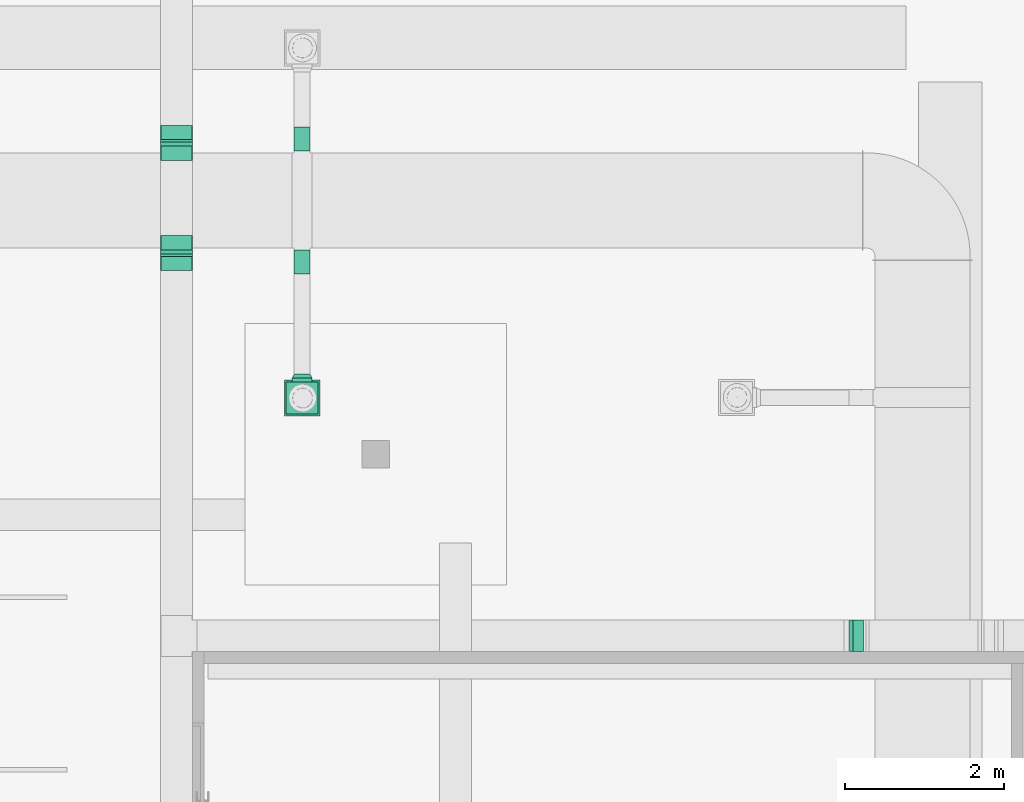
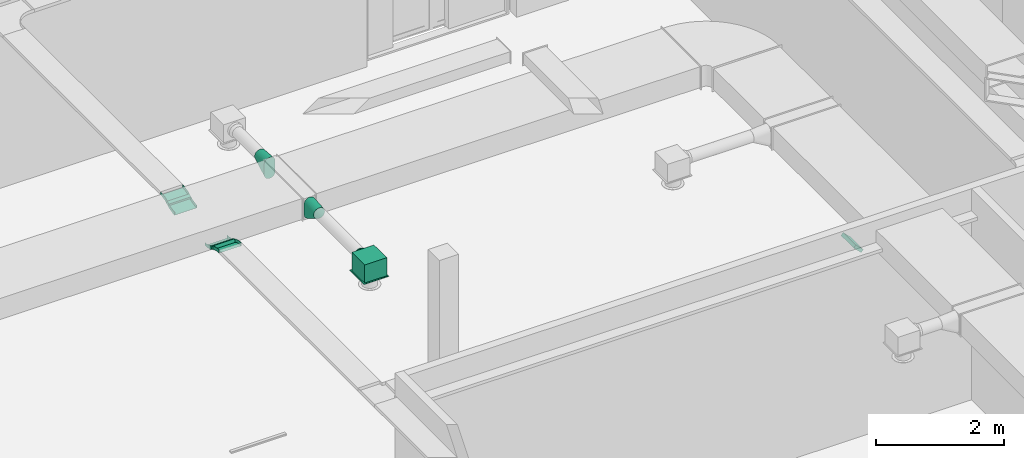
# One storey, part 284 of 302: 7 flow fittings, 3 flow segments, 1 flow terminal.
"""IFC2X3 building model written with IfcOpenShell, lengths in metres."""

from ifc_helpers import new_model, entity, si_unit, converted_unit, derived_unit, direction, frame, frame_2d, origin, origin_2d_with_axis, place, context, subcontext, project, spatial, rectangle, circle, extrude, faceted_brep, source, transform, mapped, material, material_list, type_object, type_shapes, element, save


model = new_model("IFC2X3")

# Units and contexts
model_context = context("Model", 3, precision=1e-05, world=origin(), true_north=direction((6.12303176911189e-17, 1.0)))
body_context = subcontext(model_context, "Body", "Model", "MODEL_VIEW")
ifc_project = project(units=[si_unit("LENGTHUNIT", "METRE"), si_unit("AREAUNIT", "SQUARE_METRE"), si_unit("VOLUMEUNIT", "CUBIC_METRE"), converted_unit("PLANEANGLEUNIT", "DEGREE", entity("IfcRatioMeasure", 0.0174532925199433), si_unit("PLANEANGLEUNIT", "RADIAN"), dimensions=[0, 0, 0, 0, 0, 0, 0]), si_unit("MASSUNIT", "GRAM", prefix="KILO"), derived_unit("MASSDENSITYUNIT", [(si_unit("MASSUNIT", "GRAM", prefix="KILO"), 1), (si_unit("LENGTHUNIT", "METRE"), -3)]), derived_unit("MOMENTOFINERTIAUNIT", [(si_unit("LENGTHUNIT", "METRE"), 4)]), si_unit("TIMEUNIT", "SECOND"), si_unit("FREQUENCYUNIT", "HERTZ"), si_unit("THERMODYNAMICTEMPERATUREUNIT", "DEGREE_CELSIUS"), derived_unit("THERMALTRANSMITTANCEUNIT", [(si_unit("MASSUNIT", "GRAM", prefix="KILO"), 1), (si_unit("THERMODYNAMICTEMPERATUREUNIT", "KELVIN"), -1), (si_unit("TIMEUNIT", "SECOND"), -3)]), derived_unit("VOLUMETRICFLOWRATEUNIT", [(si_unit("LENGTHUNIT", "METRE"), 3), (si_unit("TIMEUNIT", "SECOND"), -1)]), si_unit("ELECTRICCURRENTUNIT", "AMPERE"), si_unit("ELECTRICVOLTAGEUNIT", "VOLT"), si_unit("POWERUNIT", "WATT"), si_unit("FORCEUNIT", "NEWTON", prefix="KILO"), si_unit("ILLUMINANCEUNIT", "LUX"), si_unit("LUMINOUSFLUXUNIT", "LUMEN"), si_unit("LUMINOUSINTENSITYUNIT", "CANDELA"), derived_unit("USERDEFINED", [(si_unit("MASSUNIT", "GRAM", prefix="KILO"), -1), (si_unit("LENGTHUNIT", "METRE"), -2), (si_unit("TIMEUNIT", "SECOND"), 3), (si_unit("LUMINOUSFLUXUNIT", "LUMEN"), 1)]), derived_unit("LINEARVELOCITYUNIT", [(si_unit("LENGTHUNIT", "METRE"), 1), (si_unit("TIMEUNIT", "SECOND"), -1)]), si_unit("PRESSUREUNIT", "PASCAL"), derived_unit("USERDEFINED", [(si_unit("LENGTHUNIT", "METRE"), -2), (si_unit("MASSUNIT", "GRAM", prefix="KILO"), 1), (si_unit("TIMEUNIT", "SECOND"), -2)]), derived_unit("LINEARFORCEUNIT", [(si_unit("MASSUNIT", "GRAM", prefix="KILO"), 1), (si_unit("LENGTHUNIT", "METRE"), 1), (si_unit("TIMEUNIT", "SECOND"), -2), (si_unit("LENGTHUNIT", "METRE"), -1)]), derived_unit("PLANARFORCEUNIT", [(si_unit("MASSUNIT", "GRAM", prefix="KILO"), 1), (si_unit("LENGTHUNIT", "METRE"), 1), (si_unit("TIMEUNIT", "SECOND"), -2), (si_unit("LENGTHUNIT", "METRE"), -2)])], contexts=[model_context])

# Site, building, storey
site_placement = place(None, origin())
site = spatial("IfcSite", under=ifc_project, at=site_placement, Name="Default", CompositionType="ELEMENT")
building_placement = place(site_placement, origin())
building = spatial("IfcBuilding", under=site, at=building_placement, CompositionType="ELEMENT")
storey_placement = place(building_placement, frame((0.0, 0.0, -1.3)))
storey = spatial("IfcBuildingStorey", under=building, at=storey_placement, Name="00_EG", CompositionType="ELEMENT", Elevation=-1.3)

# Flow segments
cable_carrier_segment_type = type_object("IfcCableCarrierSegmentType", Name="Kabeltrasse mit Formteilen:Channel Cable Tray", PredefinedType="CABLETRAYSEGMENT")
flow_segment_1_placement = place(storey_placement, origin())
element("IfcFlowSegment", 1, at=flow_segment_1_placement, inside=storey, type_object=cable_carrier_segment_type, Name="Kabeltrasse mit Formteilen:Channel Cable Tray", ObjectType="Kabeltrasse mit Formteilen:Channel Cable Tray", context=body_context, shape_type="SweptSolid", body=[
    extrude(rectangle(XDim=0.0600000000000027, YDim=0.0578549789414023, at=frame_2d((-1.23165366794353e-16, -2.41126563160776e-16), x_axis=(0.0, 1.0))), frame((-220.285111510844, 39.335257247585, 4.79000000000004), z_axis=(1.0, 0.0, 0.0), x_axis=(0.0, 0.891006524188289, 0.453990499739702)), (0.0, 0.0, 1.0), 0.399999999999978),
])
flow_segment_2_placement = place(storey_placement, origin())
element("IfcFlowSegment", 2, at=flow_segment_2_placement, inside=storey, type_object=cable_carrier_segment_type, Name="Kabeltrasse mit Formteilen:Channel Cable Tray", ObjectType="Kabeltrasse mit Formteilen:Channel Cable Tray", context=body_context, shape_type="SweptSolid", body=[
    extrude(rectangle(XDim=0.0600000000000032, YDim=0.0578549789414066, at=frame_2d((-1.80584713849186e-15, -1.22471477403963e-15), x_axis=(0.0, 1.0))), frame((-220.285111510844, 37.9444956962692, 4.79000000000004), z_axis=(1.0, 0.0, 0.0), x_axis=(0.0, -0.891006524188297, 0.453990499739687)), (0.0, 0.0, 1.0), 0.399999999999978),
])
flow_segment_3_placement = place(storey_placement, origin())
element("IfcFlowSegment", 3, at=flow_segment_3_placement, inside=storey, type_object=cable_carrier_segment_type, Name="Kabeltrasse mit Formteilen:Channel Cable Tray", ObjectType="Kabeltrasse mit Formteilen:Channel Cable Tray", context=body_context, shape_type="SweptSolid", body=[
    extrude(rectangle(XDim=0.189289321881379, YDim=0.0600000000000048, at=frame_2d((1.87350135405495e-16, 1.89084858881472e-16), x_axis=(1.0, 0.0))), frame((-211.512193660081, 32.9190889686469, 4.745), z_axis=(0.0, 1.0, 0.0), x_axis=(0.707106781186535, 0.0, -0.70710678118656)), (0.0, 0.0, 1.0), 0.400000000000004),
])

# Flow fittings
ifc_material = material(Name="<Unnamed>")
cable_carrier_fitting_type_1 = type_object("IfcCableCarrierFittingType", Name="Kabeltrasse - Bogen außen vertikal:Standard", PredefinedType="NOTDEFINED", material=ifc_material)
shared_shape_1 = source(origin(), body_context, "Body", "Brep", [
    faceted_brep([(-0.103233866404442, -0.0300000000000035, 0.199999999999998), (-0.103233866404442, 0.0299999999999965, 0.199999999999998), (-0.103233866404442, 0.0299999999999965, -0.200000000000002), (-0.103233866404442, -0.0300000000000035, -0.200000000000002), (-0.103233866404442, -0.0300000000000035, -0.197460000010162), (-0.103233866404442, 0.0274600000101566, -0.197460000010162), (-0.103233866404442, 0.0274600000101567, 0.197460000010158), (-0.103233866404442, -0.0300000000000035, 0.197460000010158), (0.105601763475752, 0.0201369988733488, 0.199999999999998), (0.105601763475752, 0.0201369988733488, 0.197460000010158), (0.0795154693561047, 0.071334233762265, 0.197460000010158), (0.0795154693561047, 0.071334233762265, -0.197460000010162), (0.105601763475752, 0.0201369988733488, -0.197460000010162), (0.105601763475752, 0.0201369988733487, -0.200000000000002), (0.0783623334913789, 0.0735973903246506, -0.200000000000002), (0.0783623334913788, 0.0735973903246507, 0.199999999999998), (-0.0487892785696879, -0.0300000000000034, 0.199999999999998), (0.0570912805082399, -0.00458032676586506, 0.199999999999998), (0.036179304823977, 0.052104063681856, 0.199999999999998), (-0.0558907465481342, 0.0299999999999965, 0.199999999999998), (-0.0558907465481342, 0.0299999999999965, -0.200000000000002), (0.036179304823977, 0.052104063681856, -0.200000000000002), (0.0570912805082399, -0.00458032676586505, -0.200000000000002), (-0.0487892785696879, -0.0300000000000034, -0.200000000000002), (-0.0487892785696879, -0.0300000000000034, -0.197460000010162), (0.0570912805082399, -0.00458032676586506, -0.197460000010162), (0.0370645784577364, 0.0497044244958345, -0.197460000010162), (-0.0555901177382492, 0.0274600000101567, -0.197460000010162), (-0.0555901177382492, 0.0274600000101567, 0.197460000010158), (0.0370645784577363, 0.0497044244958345, 0.197460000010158), (0.0570912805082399, -0.00458032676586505, 0.197460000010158), (-0.0487892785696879, -0.0300000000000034, 0.197460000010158)], [[[0, 1, 2, 3, 4, 5, 6, 7]], [[8, 9, 10, 11, 12, 13, 14, 15]], [[1, 0, 16, 17, 8, 15, 18, 19]], [[2, 1, 19, 20]], [[3, 2, 20, 21, 14, 13, 22, 23]], [[4, 3, 23, 24]], [[5, 4, 24, 25, 12, 11, 26, 27]], [[6, 5, 27, 28]], [[7, 6, 28, 29, 10, 9, 30, 31]], [[0, 7, 31, 16]], [[20, 19, 18, 21]], [[24, 23, 22, 25]], [[28, 27, 26, 29]], [[16, 31, 30, 17]], [[21, 18, 15, 14]], [[25, 22, 13, 12]], [[29, 26, 11, 10]], [[17, 30, 9, 8]]]),
])
type_shapes(cable_carrier_fitting_type_1, [shared_shape_1])
flow_fitting_1_placement = place(storey_placement, frame((-220.085111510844, 37.8267390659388, 4.85000000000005), z_axis=(1.0, 0.0, 0.0), x_axis=(0.0, -0.891006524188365, 0.453990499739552)))
element("IfcFlowFitting", 4, at=flow_fitting_1_placement, inside=storey, type_object=cable_carrier_fitting_type_1, material=ifc_material, Name="Kabeltrasse - Bogen außen vertikal:Standard", ObjectType="Kabeltrasse - Bogen außen vertikal:Standard", context=body_context, shape_type="MappedRepresentation", body=[
    mapped(shared_shape_1, transform((0.0, 0.0, 0.0), scale=1.0)),
])
cable_carrier_fitting_type_2 = type_object("IfcCableCarrierFittingType", Name="Kabeltrasse - Bogen innen vertikal:Standard", PredefinedType="NOTDEFINED", material=ifc_material)
shared_shape_2 = source(origin(), body_context, "Body", "Brep", [
    faceted_brep([(-0.103233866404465, 0.0299999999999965, 0.199999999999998), (-0.103233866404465, 0.0299999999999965, 0.197460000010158), (-0.103233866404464, -0.0274600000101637, 0.197460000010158), (-0.103233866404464, -0.0274600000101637, -0.197460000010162), (-0.103233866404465, 0.0299999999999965, -0.197460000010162), (-0.103233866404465, 0.0299999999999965, -0.200000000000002), (-0.103233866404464, -0.0300000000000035, -0.200000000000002), (-0.103233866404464, -0.0300000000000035, 0.199999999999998), (0.0783623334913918, 0.0735973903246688, 0.199999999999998), (0.10560176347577, 0.0201369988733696, 0.199999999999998), (0.10560176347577, 0.0201369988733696, -0.200000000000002), (0.0783623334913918, 0.0735973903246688, -0.200000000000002), (0.0783623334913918, 0.0735973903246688, -0.197460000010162), (0.104448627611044, 0.0224001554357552, -0.197460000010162), (0.104448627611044, 0.0224001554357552, 0.197460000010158), (0.0783623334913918, 0.0735973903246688, 0.197460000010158), (-0.0558907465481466, 0.0299999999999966, 0.199999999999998), (-0.0558907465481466, 0.0299999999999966, 0.197460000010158), (0.036179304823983, 0.0521040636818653, 0.197460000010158), (0.0562060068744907, -0.00218068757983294, 0.197460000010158), (-0.0490899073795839, -0.0274600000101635, 0.197460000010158), (-0.0490899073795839, -0.0274600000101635, -0.197460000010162), (0.0562060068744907, -0.00218068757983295, -0.197460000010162), (0.036179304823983, 0.0521040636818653, -0.197460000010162), (-0.0558907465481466, 0.0299999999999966, -0.197460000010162), (-0.0558907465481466, 0.0299999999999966, -0.200000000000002), (0.036179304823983, 0.0521040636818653, -0.200000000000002), (0.0570912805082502, -0.00458032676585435, -0.200000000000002), (-0.0487892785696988, -0.0300000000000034, -0.200000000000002), (-0.0487892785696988, -0.0300000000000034, 0.199999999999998), (0.0570912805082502, -0.00458032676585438, 0.199999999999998), (0.036179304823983, 0.0521040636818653, 0.199999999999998)], [[[0, 1, 2, 3, 4, 5, 6, 7]], [[8, 9, 10, 11, 12, 13, 14, 15]], [[1, 0, 16, 17]], [[2, 1, 17, 18, 15, 14, 19, 20]], [[3, 2, 20, 21]], [[4, 3, 21, 22, 13, 12, 23, 24]], [[5, 4, 24, 25]], [[6, 5, 25, 26, 11, 10, 27, 28]], [[7, 6, 28, 29]], [[0, 7, 29, 30, 9, 8, 31, 16]], [[17, 16, 31, 18]], [[21, 20, 19, 22]], [[25, 24, 23, 26]], [[29, 28, 27, 30]], [[18, 31, 8, 15]], [[22, 19, 14, 13]], [[26, 23, 12, 11]], [[30, 27, 10, 9]]]),
])
type_shapes(cable_carrier_fitting_type_2, [shared_shape_2])
flow_fitting_2_placement = place(storey_placement, frame((-220.085111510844, 38.0622523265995, 4.73000000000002), z_axis=(1.0, 0.0, 0.0), x_axis=(0.0, 0.89100652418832, -0.453990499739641)))
element("IfcFlowFitting", 5, at=flow_fitting_2_placement, inside=storey, type_object=cable_carrier_fitting_type_2, material=ifc_material, Name="Kabeltrasse - Bogen innen vertikal:Standard", ObjectType="Kabeltrasse - Bogen innen vertikal:Standard", context=body_context, shape_type="MappedRepresentation", body=[
    mapped(shared_shape_2, transform((0.0, 0.0, 0.0), scale=1.0)),
])
cable_carrier_fitting_type_3 = type_object("IfcCableCarrierFittingType", Name="Kabeltrasse - Bogen außen vertikal:Standard", PredefinedType="NOTDEFINED", material=ifc_material)
shared_shape_3 = source(origin(), body_context, "Body", "Brep", [
    faceted_brep([(-0.103233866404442, 0.0300000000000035, 0.199999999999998), (-0.103233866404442, 0.0300000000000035, 0.197460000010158), (-0.103233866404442, -0.0274600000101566, 0.197460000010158), (-0.103233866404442, -0.0274600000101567, -0.197460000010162), (-0.103233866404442, 0.0300000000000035, -0.197460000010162), (-0.103233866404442, 0.0300000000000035, -0.200000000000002), (-0.103233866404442, -0.0299999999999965, -0.200000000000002), (-0.103233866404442, -0.0299999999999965, 0.199999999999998), (0.105601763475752, -0.0201369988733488, 0.199999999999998), (0.0783623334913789, -0.0735973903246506, 0.199999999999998), (0.0783623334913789, -0.0735973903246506, -0.200000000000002), (0.105601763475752, -0.0201369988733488, -0.200000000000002), (0.105601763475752, -0.0201369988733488, -0.197460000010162), (0.0795154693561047, -0.071334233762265, -0.197460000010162), (0.0795154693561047, -0.071334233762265, 0.197460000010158), (0.105601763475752, -0.0201369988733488, 0.197460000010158), (-0.0558907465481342, -0.0299999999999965, 0.199999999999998), (0.036179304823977, -0.052104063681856, 0.199999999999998), (0.0570912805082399, 0.00458032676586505, 0.199999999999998), (-0.0487892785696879, 0.0300000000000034, 0.199999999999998), (-0.0558907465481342, -0.0299999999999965, -0.200000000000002), (-0.0487892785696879, 0.0300000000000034, -0.200000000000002), (0.0570912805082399, 0.00458032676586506, -0.200000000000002), (0.036179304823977, -0.052104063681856, -0.200000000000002), (-0.0487892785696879, 0.0300000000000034, -0.197460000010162), (-0.0555901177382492, -0.0274600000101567, -0.197460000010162), (0.0370645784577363, -0.0497044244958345, -0.197460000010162), (0.0570912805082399, 0.00458032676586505, -0.197460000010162), (-0.0555901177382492, -0.0274600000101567, 0.197460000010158), (-0.0487892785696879, 0.0300000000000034, 0.197460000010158), (0.0570912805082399, 0.00458032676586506, 0.197460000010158), (0.0370645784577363, -0.0497044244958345, 0.197460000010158)], [[[0, 1, 2, 3, 4, 5, 6, 7]], [[8, 9, 10, 11, 12, 13, 14, 15]], [[7, 16, 17, 9, 8, 18, 19, 0]], [[6, 20, 16, 7]], [[5, 21, 22, 11, 10, 23, 20, 6]], [[4, 24, 21, 5]], [[3, 25, 26, 13, 12, 27, 24, 4]], [[2, 28, 25, 3]], [[1, 29, 30, 15, 14, 31, 28, 2]], [[0, 19, 29, 1]], [[20, 23, 17, 16]], [[24, 27, 22, 21]], [[28, 31, 26, 25]], [[19, 18, 30, 29]], [[23, 10, 9, 17]], [[27, 12, 11, 22]], [[31, 14, 13, 26]], [[18, 8, 15, 30]]]),
])
type_shapes(cable_carrier_fitting_type_3, [shared_shape_3])
flow_fitting_3_placement = place(storey_placement, frame((-220.085111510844, 39.4530138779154, 4.85000000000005), z_axis=(1.0, 0.0, 0.0), x_axis=(0.0, 0.891006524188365, 0.453990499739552)))
element("IfcFlowFitting", 6, at=flow_fitting_3_placement, inside=storey, type_object=cable_carrier_fitting_type_3, material=ifc_material, Name="Kabeltrasse - Bogen außen vertikal:Standard", ObjectType="Kabeltrasse - Bogen außen vertikal:Standard", context=body_context, shape_type="MappedRepresentation", body=[
    mapped(shared_shape_3, transform((0.0, 0.0, 0.0), scale=1.0)),
])
cable_carrier_fitting_type_4 = type_object("IfcCableCarrierFittingType", Name="Kabeltrasse - Bogen innen vertikal:Standard", PredefinedType="NOTDEFINED", material=ifc_material)
shared_shape_4 = source(origin(), body_context, "Body", "Brep", [
    faceted_brep([(-0.103233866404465, -0.0299999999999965, 0.199999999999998), (-0.103233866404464, 0.0300000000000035, 0.199999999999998), (-0.103233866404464, 0.0300000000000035, -0.200000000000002), (-0.103233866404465, -0.0299999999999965, -0.200000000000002), (-0.103233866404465, -0.0299999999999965, -0.197460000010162), (-0.103233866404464, 0.0274600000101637, -0.197460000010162), (-0.103233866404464, 0.0274600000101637, 0.197460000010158), (-0.103233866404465, -0.0299999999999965, 0.197460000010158), (0.0783623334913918, -0.0735973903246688, 0.199999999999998), (0.0783623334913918, -0.0735973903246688, 0.197460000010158), (0.104448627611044, -0.0224001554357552, 0.197460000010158), (0.104448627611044, -0.0224001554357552, -0.197460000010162), (0.0783623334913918, -0.0735973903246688, -0.197460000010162), (0.0783623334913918, -0.0735973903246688, -0.200000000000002), (0.10560176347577, -0.0201369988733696, -0.200000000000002), (0.10560176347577, -0.0201369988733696, 0.199999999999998), (-0.0558907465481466, -0.0299999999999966, 0.197460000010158), (-0.0558907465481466, -0.0299999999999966, 0.199999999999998), (-0.0490899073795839, 0.0274600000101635, 0.197460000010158), (0.0562060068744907, 0.00218068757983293, 0.197460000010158), (0.036179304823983, -0.0521040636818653, 0.197460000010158), (-0.0490899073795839, 0.0274600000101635, -0.197460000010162), (-0.0558907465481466, -0.0299999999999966, -0.197460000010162), (0.036179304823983, -0.0521040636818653, -0.197460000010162), (0.0562060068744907, 0.00218068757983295, -0.197460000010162), (-0.0558907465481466, -0.0299999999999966, -0.200000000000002), (-0.0487892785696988, 0.0300000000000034, -0.200000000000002), (0.0570912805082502, 0.00458032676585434, -0.200000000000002), (0.036179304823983, -0.0521040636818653, -0.200000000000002), (-0.0487892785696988, 0.0300000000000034, 0.199999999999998), (0.036179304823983, -0.0521040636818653, 0.199999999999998), (0.0570912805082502, 0.00458032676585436, 0.199999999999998)], [[[0, 1, 2, 3, 4, 5, 6, 7]], [[8, 9, 10, 11, 12, 13, 14, 15]], [[7, 16, 17, 0]], [[6, 18, 19, 10, 9, 20, 16, 7]], [[5, 21, 18, 6]], [[4, 22, 23, 12, 11, 24, 21, 5]], [[3, 25, 22, 4]], [[2, 26, 27, 14, 13, 28, 25, 3]], [[1, 29, 26, 2]], [[0, 17, 30, 8, 15, 31, 29, 1]], [[16, 20, 30, 17]], [[21, 24, 19, 18]], [[25, 28, 23, 22]], [[29, 31, 27, 26]], [[20, 9, 8, 30]], [[24, 11, 10, 19]], [[28, 13, 12, 23]], [[31, 15, 14, 27]]]),
])
type_shapes(cable_carrier_fitting_type_4, [shared_shape_4])
flow_fitting_4_placement = place(storey_placement, frame((-220.085111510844, 39.2175006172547, 4.73000000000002), z_axis=(1.0, 0.0, 0.0), x_axis=(0.0, -0.89100652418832, -0.453990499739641)))
element("IfcFlowFitting", 7, at=flow_fitting_4_placement, inside=storey, type_object=cable_carrier_fitting_type_4, material=ifc_material, Name="Kabeltrasse - Bogen innen vertikal:Standard", ObjectType="Kabeltrasse - Bogen innen vertikal:Standard", context=body_context, shape_type="MappedRepresentation", body=[
    mapped(shared_shape_4, transform((0.0, 0.0, 0.0), scale=1.0)),
])
duct_fitting_type_1 = type_object("IfcDuctFittingType", Name="STR_RND_Transition:STR_Transition_RND_GS_EA", PredefinedType="NOTDEFINED", material=ifc_material)
shared_shape_5 = source(origin(), body_context, "Body", "Brep", [
    faceted_brep([(0.0500000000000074, -0.073473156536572, -0.1011271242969), (0.0500000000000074, -0.0386271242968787, -0.118882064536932), (0.0500000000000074, 0.0, -0.12500000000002), (0.0500000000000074, 0.0386271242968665, -0.11888206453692), (0.0500000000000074, 0.073473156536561, -0.101127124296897), (0.0500000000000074, 0.101127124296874, -0.0734731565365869), (0.0500000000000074, 0.1188820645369, -0.038627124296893), (0.0500000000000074, 0.124999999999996, 0.0), (0.0500000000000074, 0.118882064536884, 0.0386271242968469), (0.0500000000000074, 0.101127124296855, 0.073473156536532), (0.0500000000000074, 0.0734731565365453, 0.101127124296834), (0.0500000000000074, 0.0386271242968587, 0.118882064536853), (0.0500000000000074, 0.0, 0.12499999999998), (0.0500000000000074, -0.0386271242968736, 0.118882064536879), (0.0500000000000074, -0.0734731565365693, 0.101127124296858), (0.0500000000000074, -0.101127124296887, 0.0734731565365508), (0.0500000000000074, -0.118882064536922, 0.0386271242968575), (0.0500000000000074, -0.125000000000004, 0.0), (0.0500000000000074, -0.118882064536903, -0.0386271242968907), (0.0500000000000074, -0.101127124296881, -0.0734731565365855), (0.0, 0.0309016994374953, -0.0951056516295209), (0.0, 0.0, -0.100000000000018), (0.0, -0.0309016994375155, -0.0951056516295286), (0.0, -0.0587785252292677, -0.0809016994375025), (0.0, -0.0809016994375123, -0.0587785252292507), (0.0, -0.0951056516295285, -0.0309016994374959), (0.0, -0.100000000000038, 0.0), (0.0, -0.0951056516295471, 0.0309016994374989), (0.0, -0.0809016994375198, 0.0587785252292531), (0.0, -0.058778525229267, 0.0809016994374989), (0.0, -0.0309016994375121, 0.0951056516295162), (0.0, 0.0, 0.0999999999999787), (0.0, 0.0309016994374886, 0.0951056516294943), (0.0, 0.0587785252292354, 0.0809016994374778), (0.0, 0.0809016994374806, 0.0587785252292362), (0.0, 0.0951056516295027, 0.0309016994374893), (0.0, 0.0999999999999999, 0.0), (0.0, 0.0951056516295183, -0.0309016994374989), (0.0, 0.0809016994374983, -0.0587785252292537), (0.0, 0.0587785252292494, -0.0809016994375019)], [[[0, 1, 2, 3, 4, 5, 6, 7, 8, 9, 10, 11, 12, 13, 14, 15, 16, 17, 18, 19]], [[20, 21, 22, 23, 24, 25, 26, 27, 28, 29, 30, 31, 32, 33, 34, 35, 36, 37, 38, 39]], [[35, 34, 9, 8]], [[36, 35, 8, 7]], [[34, 33, 10, 9]], [[10, 33, 32, 11]], [[11, 32, 31, 12]], [[30, 29, 14, 13]], [[31, 30, 13, 12]], [[29, 28, 15, 14]], [[15, 28, 27, 16]], [[16, 27, 26, 17]], [[25, 24, 19, 18]], [[26, 25, 18, 17]], [[24, 23, 0, 19]], [[0, 23, 22, 1]], [[1, 22, 21, 2]], [[20, 39, 4, 3]], [[21, 20, 3, 2]], [[39, 38, 5, 4]], [[5, 38, 37, 6]], [[6, 37, 36, 7]]]),
])
type_shapes(duct_fitting_type_1, [shared_shape_5])
flow_fitting_5_placement = place(storey_placement, frame((-218.500835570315, 36.4181484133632, 4.985), z_axis=(0.0, 0.0, 1.0), x_axis=(0.0, -1.0, 0.0)))
element("IfcFlowFitting", 8, at=flow_fitting_5_placement, inside=storey, type_object=duct_fitting_type_1, material=ifc_material, Name="STR_RND_Transition:STR_Transition_RND_GS_EA", ObjectType="STR_RND_Transition:STR_Transition_RND_GS_EA", context=body_context, shape_type="MappedRepresentation", body=[
    mapped(shared_shape_5, transform((0.0, 0.0, 0.0), scale=1.0)),
])

# Flow terminal
ifc_material_list = material_list([ifc_material, ifc_material, ifc_material])
air_terminal_type = type_object("IfcAirTerminalType", Name="Drallauslass Zuluft seitlich:600 quadratisch", PredefinedType="NOTDEFINED", material=ifc_material_list)
shared_shape_6 = source(origin(), body_context, "Body", "SweptSolid", [
    extrude(rectangle(XDim=0.450000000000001, YDim=0.449999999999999, at=origin_2d_with_axis()), frame((0.0, 0.0, 2.692), z_axis=(0.0, 0.0, 1.0), x_axis=(0.0, 1.0, 0.0)), (0.0, 0.0, 1.0), 0.00800000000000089),
    extrude(circle(Radius=0.125, at=frame_2d((1.22275294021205e-18, -5.41433564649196e-16), x_axis=(1.0, 0.0))), frame((-0.25, 0.0, 2.89500000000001), z_axis=(1.0, 0.0, 0.0), x_axis=(0.0, -1.0, 0.0)), (0.0, 0.0, 1.0), 0.0499999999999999),
    extrude(rectangle(XDim=0.4, YDim=0.399999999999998, at=origin_2d_with_axis()), frame((0.0, 0.0, 2.7), z_axis=(0.0, 0.0, 1.0), x_axis=(0.0, 1.0, 0.0)), (0.0, 0.0, 1.0), 0.345000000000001),
])
type_shapes(air_terminal_type, [shared_shape_6])
flow_terminal_placement = place(storey_placement, frame((-218.500835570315, 36.1181484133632, 2.09), z_axis=(0.0, 0.0, 1.0), x_axis=(0.0, -1.0, 0.0)))
element("IfcFlowTerminal", 9, at=flow_terminal_placement, inside=storey, type_object=air_terminal_type, material=ifc_material, Name="Drallauslass Zuluft seitlich:600 quadratisch", ObjectType="Drallauslass Zuluft seitlich:600 quadratisch", context=body_context, shape_type="MappedRepresentation", body=[
    mapped(shared_shape_6, transform((0.0, 0.0, 0.0), scale=1.0)),
])

# Flow fittings
duct_fitting_type_2 = type_object("IfcDuctFittingType", Name="STR_OVL_Transition:STR_Transition_OVL_GS_EA", PredefinedType="NOTDEFINED", material=ifc_material)
shared_shape_7 = source(origin(), body_context, "Body", "Brep", [
    faceted_brep([(0.300000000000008, 0.0999999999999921, 0.0765874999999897), (0.300000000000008, 0.0966466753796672, 0.102058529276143), (0.300000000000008, 0.0868152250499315, 0.125793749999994), (0.300000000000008, 0.0711756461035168, 0.146175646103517), (0.300000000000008, 0.0507937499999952, 0.161815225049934), (0.300000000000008, 0.0270585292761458, 0.171646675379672), (0.300000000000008, 0.00158749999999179, 0.175), (0.300000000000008, -0.00158750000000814, 0.175), (0.300000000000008, -0.0270585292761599, 0.171646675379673), (0.300000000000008, -0.0507937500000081, 0.161815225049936), (0.300000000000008, -0.0711756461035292, 0.146175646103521), (0.300000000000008, -0.0868152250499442, 0.12579375), (0.300000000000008, -0.0966466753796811, 0.102058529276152), (0.300000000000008, -0.100000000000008, 0.0765874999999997), (0.300000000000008, -0.100000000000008, 0.0734124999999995), (0.300000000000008, -0.0966466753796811, 0.0479414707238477), (0.300000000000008, -0.0868152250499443, 0.0242062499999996), (0.300000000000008, -0.0711756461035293, 0.00382435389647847), (0.300000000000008, -0.0507937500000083, -0.0118152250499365), (0.300000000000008, -0.0270585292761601, -0.0216466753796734), (0.300000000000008, -0.00158750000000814, -0.0250000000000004), (0.300000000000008, 0.0015874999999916, -0.0250000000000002), (0.300000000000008, 0.0270585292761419, -0.0216466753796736), (0.300000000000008, 0.0507937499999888, -0.011815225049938), (0.300000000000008, 0.0711756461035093, 0.00382435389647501), (0.300000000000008, 0.0868152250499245, 0.0242062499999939), (0.300000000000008, 0.0966466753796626, 0.0479414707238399), (0.300000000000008, 0.0999999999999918, 0.0734124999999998), (0.0, 0.0507937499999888, -0.186815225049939), (0.0, 0.0270585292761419, -0.196646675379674), (0.0, 0.00158749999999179, -0.200000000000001), (0.0, -0.00158750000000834, -0.200000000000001), (0.0, -0.0270585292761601, -0.196646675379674), (0.0, -0.0507937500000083, -0.186815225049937), (0.0, -0.0711756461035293, -0.171175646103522), (0.0, -0.0868152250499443, -0.150793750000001), (0.0, -0.0966466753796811, -0.127058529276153), (0.0, -0.100000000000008, -0.101587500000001), (0.0, -0.100000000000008, 0.101587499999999), (0.0, -0.0966466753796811, 0.127058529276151), (0.0, -0.0868152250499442, 0.150793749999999), (0.0, -0.0711756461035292, 0.17117564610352), (0.0, -0.0507937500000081, 0.186815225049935), (0.0, -0.0270585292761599, 0.196646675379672), (0.0, -0.00158750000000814, 0.199999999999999), (0.0, 0.00158749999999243, 0.199999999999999), (0.0, 0.0270585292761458, 0.196646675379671), (0.0, 0.0507937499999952, 0.186815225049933), (0.0, 0.0711756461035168, 0.171175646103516), (0.0, 0.0868152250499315, 0.150793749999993), (0.0, 0.0966466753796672, 0.127058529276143), (0.0, 0.100000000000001, 0.101587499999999), (0.0, 0.0999999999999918, -0.101587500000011), (0.0, 0.0966466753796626, -0.127058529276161), (0.0, 0.0868152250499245, -0.150793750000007), (0.0, 0.0711756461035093, -0.171175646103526), (0.154247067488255, -0.0203412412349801, 0.185342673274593), (0.145752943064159, -0.0981965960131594, 0.10819516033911), (0.107489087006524, -0.00158750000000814, 0.191042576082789), (0.149999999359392, -0.0614972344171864, 0.167163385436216), (0.15000000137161, -0.0392483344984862, 0.180008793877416), (0.150000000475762, -0.0796633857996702, 0.148997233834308), (0.192510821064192, -0.100000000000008, 0.0855449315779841), (0.149999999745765, -0.0925087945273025, 0.126748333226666), (0.0998539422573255, -0.100000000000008, -0.0433393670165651), (0.15000000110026, -0.0925087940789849, -0.0517483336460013), (0.150000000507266, -0.061497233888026, -0.0921633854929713), (0.149999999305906, -0.0796633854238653, -0.073997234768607), (0.153474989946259, -0.0982242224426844, -0.0306712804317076), (0.153474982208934, -0.0201983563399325, -0.108697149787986), (0.0998539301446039, -0.00158750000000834, -0.141751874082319), (0.149999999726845, -0.0392483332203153, -0.105008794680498), (0.0998539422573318, 0.0015874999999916, -0.141751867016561), (0.15000000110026, 0.0392483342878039, -0.105008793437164), (0.150000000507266, 0.0796633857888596, -0.0739972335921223), (0.149999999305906, 0.0614972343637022, -0.0921633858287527), (0.153474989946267, 0.020198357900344, -0.108697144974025), (0.153474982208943, 0.0982242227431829, -0.030671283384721), (0.0998539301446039, 0.0999999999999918, -0.0433393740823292), (0.149999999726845, 0.0925087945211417, -0.0517483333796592), (0.107489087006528, 0.0999999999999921, 0.0926300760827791), (0.154247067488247, 0.0981965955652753, 0.107487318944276), (0.145752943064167, 0.0203412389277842, 0.18605051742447), (0.149999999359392, 0.079663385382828, 0.148997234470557), (0.15000000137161, 0.0925087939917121, 0.12674833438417), (0.150000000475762, 0.0614972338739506, 0.167163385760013), (0.192510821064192, 0.00158749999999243, 0.183957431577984), (0.149999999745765, 0.0392483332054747, 0.18000879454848)], [[[0, 1, 2, 3, 4, 5, 6, 7, 8, 9, 10, 11, 12, 13, 14, 15, 16, 17, 18, 19, 20, 21, 22, 23, 24, 25, 26, 27]], [[28, 29, 30, 31, 32, 33, 34, 35, 36, 37, 38, 39, 40, 41, 42, 43, 44, 45, 46, 47, 48, 49, 50, 51, 52, 53, 54, 55]], [[56, 44, 43]], [[38, 57, 39]], [[56, 7, 58, 44]], [[42, 41, 59]], [[43, 60, 56]], [[59, 60, 42]], [[61, 59, 41]], [[43, 42, 60]], [[8, 56, 60]], [[10, 9, 59]], [[9, 60, 59]], [[57, 38, 62, 13]], [[40, 39, 63]], [[63, 61, 40]], [[12, 57, 13]], [[12, 63, 57]], [[9, 8, 60]], [[10, 61, 11]], [[12, 11, 63]], [[63, 11, 61]], [[39, 57, 63]], [[61, 10, 59]], [[61, 41, 40]], [[7, 56, 8]], [[14, 13, 62, 38, 37, 64]], [[36, 35, 65]], [[66, 67, 34]], [[36, 68, 64]], [[35, 34, 67]], [[36, 64, 37]], [[20, 69, 70]], [[67, 65, 35]], [[31, 70, 32]], [[68, 65, 15]], [[16, 15, 65]], [[16, 65, 67]], [[32, 69, 71]], [[33, 32, 71]], [[71, 66, 33]], [[19, 69, 20]], [[69, 19, 71]], [[36, 65, 68]], [[17, 66, 18]], [[19, 18, 71]], [[71, 18, 66]], [[70, 69, 32]], [[14, 64, 68]], [[66, 17, 67]], [[66, 34, 33]], [[14, 68, 15]], [[17, 16, 67]], [[30, 72, 21, 20, 70, 31]], [[29, 28, 73]], [[74, 75, 55]], [[29, 76, 72]], [[28, 55, 75]], [[29, 72, 30]], [[27, 77, 78]], [[75, 73, 28]], [[52, 78, 53]], [[76, 73, 22]], [[23, 22, 73]], [[23, 73, 75]], [[53, 77, 79]], [[54, 53, 79]], [[79, 74, 54]], [[26, 77, 27]], [[77, 26, 79]], [[29, 73, 76]], [[24, 74, 25]], [[26, 25, 79]], [[79, 25, 74]], [[78, 77, 53]], [[21, 72, 76]], [[74, 24, 75]], [[74, 55, 54]], [[21, 76, 22]], [[24, 23, 75]], [[51, 80, 0, 27, 78, 52]], [[81, 51, 50]], [[45, 82, 46]], [[81, 0, 80, 51]], [[49, 48, 83]], [[50, 84, 81]], [[83, 84, 49]], [[85, 83, 48]], [[50, 49, 84]], [[1, 81, 84]], [[3, 2, 83]], [[2, 84, 83]], [[82, 45, 86, 6]], [[47, 46, 87]], [[87, 85, 47]], [[5, 82, 6]], [[5, 87, 82]], [[2, 1, 84]], [[3, 85, 4]], [[5, 4, 87]], [[87, 4, 85]], [[46, 82, 87]], [[85, 3, 83]], [[85, 48, 47]], [[0, 81, 1]], [[44, 58, 7, 6, 86, 45]]]),
])
type_shapes(duct_fitting_type_2, [shared_shape_7])
for number, where, z_axis, x_axis in (
    (10, (-218.500835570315, 39.2332258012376, 4.91), (0.0, 0.0, 1.0), (0.0, 1.0, 0.0)),
    (11, (-218.500835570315, 37.9832258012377, 4.91), (0.0, 0.0, 1.0), (0.0, -1.0, 0.0)),
):
    element("IfcFlowFitting", number, at=place(storey_placement, frame(where, z_axis=z_axis, x_axis=x_axis)), inside=storey, type_object=duct_fitting_type_2, material=ifc_material, Name="STR_OVL_Transition:STR_Transition_OVL_GS_EA", ObjectType="STR_OVL_Transition:STR_Transition_OVL_GS_EA", context=body_context, shape_type="MappedRepresentation", body=[
        mapped(shared_shape_7, transform((0.0, 0.0, 0.0), scale=1.0)),
    ])

save(model, "model.ifc")
